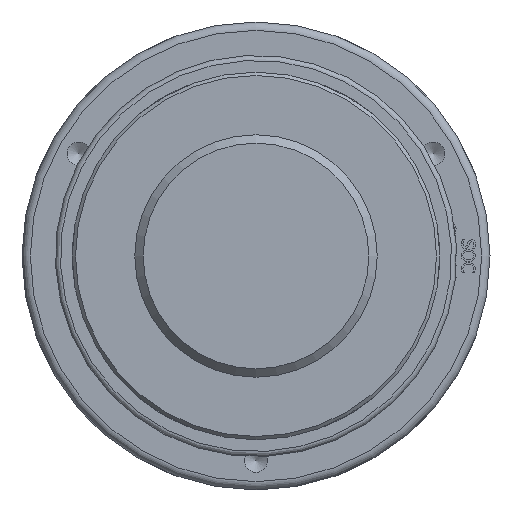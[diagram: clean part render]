
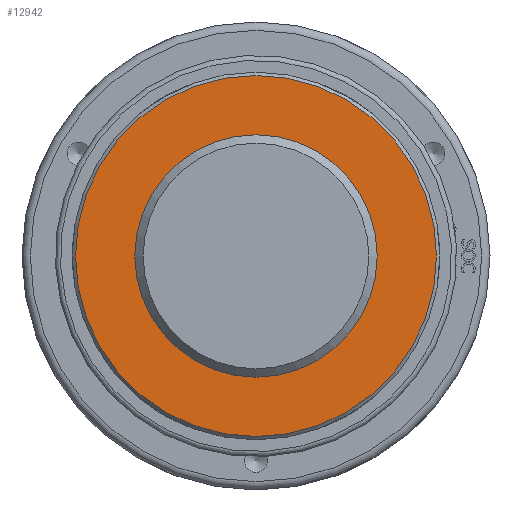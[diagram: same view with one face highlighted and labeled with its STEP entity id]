
A CAD part, front view. The second image highlights one B-rep face of the part: STEP entity #12942.
In plain terms, the highlighted planar face has unit normal (0, -1, 0) as drawn and (0, 1, 0) by its records, which use the part's own axes.
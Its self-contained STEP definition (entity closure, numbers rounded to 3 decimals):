
#90=CIRCLE('',#13583,108.);
#92=CIRCLE('',#13587,69.253);
#173=FACE_BOUND('',#1645,.T.);
#383=PLANE('',#13586);
#854=FACE_OUTER_BOUND('',#1644,.T.);
#1644=EDGE_LOOP('',(#10142));
#1645=EDGE_LOOP('',(#10143));
#5638=VERTEX_POINT('',#19982);
#5652=VERTEX_POINT('',#20222);
#7259=EDGE_CURVE('',#5638,#5638,#90,.T.);
#7273=EDGE_CURVE('',#5652,#5652,#92,.T.);
#10142=ORIENTED_EDGE('',*,*,#7259,.F.);
#10143=ORIENTED_EDGE('',*,*,#7273,.T.);
#12942=ADVANCED_FACE('',(#854,#173),#383,.T.);
#13583=AXIS2_PLACEMENT_3D('',#19983,#14634,#14635);
#13586=AXIS2_PLACEMENT_3D('',#20221,#14640,#14641);
#13587=AXIS2_PLACEMENT_3D('',#20223,#14642,#14643);
#14634=DIRECTION('center_axis',(0.,-1.,0.));
#14635=DIRECTION('ref_axis',(1.,0.,0.));
#14640=DIRECTION('center_axis',(0.,1.,0.));
#14641=DIRECTION('ref_axis',(0.,0.,1.));
#14642=DIRECTION('center_axis',(0.,-1.,0.));
#14643=DIRECTION('ref_axis',(1.,0.,0.));
#19982=CARTESIAN_POINT('',(-108.,72.5,0.));
#19983=CARTESIAN_POINT('Origin',(0.,72.5,0.));
#20221=CARTESIAN_POINT('Origin',(0.,72.5,0.));
#20222=CARTESIAN_POINT('',(-69.253,72.5,0.));
#20223=CARTESIAN_POINT('Origin',(0.,72.5,0.));
